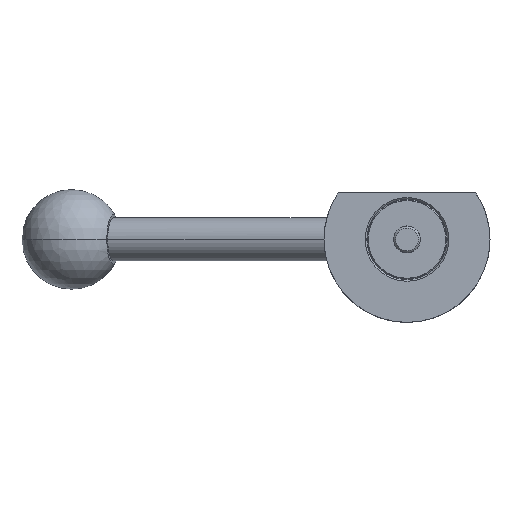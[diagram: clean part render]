
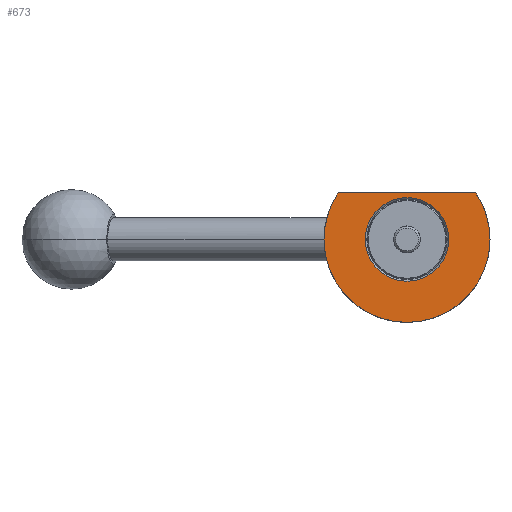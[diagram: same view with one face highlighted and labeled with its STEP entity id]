
A CAD part, front view. The second image highlights one B-rep face of the part: STEP entity #673.
In plain terms, the highlighted planar face has unit normal (0, -1, 0).
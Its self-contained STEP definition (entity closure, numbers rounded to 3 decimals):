
#8 = DIRECTION ( 'NONE',  ( -1., 0., 0. ) ) ;
#57 = DIRECTION ( 'NONE',  ( 1., 0., 0. ) ) ;
#61 = CIRCLE ( 'NONE', #1487, 25. ) ;
#81 = CARTESIAN_POINT ( 'NONE',  ( -20.712, -12., 14. ) ) ;
#136 = CARTESIAN_POINT ( 'NONE',  ( -12.6, -12., 14. ) ) ;
#153 = EDGE_CURVE ( 'NONE', #1583, #1735, #955, .T. ) ;
#198 = VECTOR ( 'NONE', #577, 1000. ) ;
#261 = AXIS2_PLACEMENT_3D ( 'NONE', #271, #1857, #1708 ) ;
#271 = CARTESIAN_POINT ( 'NONE',  ( 0., -12., 0. ) ) ;
#282 = EDGE_CURVE ( 'NONE', #740, #296, #1418, .T. ) ;
#296 = VERTEX_POINT ( 'NONE', #1472 ) ;
#430 = DIRECTION ( 'NONE',  ( 0., 1., 0. ) ) ;
#447 = EDGE_CURVE ( 'NONE', #740, #641, #752, .T. ) ;
#462 = VERTEX_POINT ( 'NONE', #1232 ) ;
#492 = CARTESIAN_POINT ( 'NONE',  ( 0., -12., 0. ) ) ;
#542 = FACE_BOUND ( 'NONE', #717, .T. ) ;
#568 = EDGE_CURVE ( 'NONE', #1735, #1583, #990, .T. ) ;
#577 = DIRECTION ( 'NONE',  ( -1., 0., 0. ) ) ;
#617 = CARTESIAN_POINT ( 'NONE',  ( 0., -12., 0. ) ) ;
#641 = VERTEX_POINT ( 'NONE', #81 ) ;
#670 = ORIENTED_EDGE ( 'NONE', *, *, #568, .T. ) ;
#673 = ADVANCED_FACE ( 'NONE', ( #542, #1147 ), #848, .T. ) ;
#717 = EDGE_LOOP ( 'NONE', ( #1296, #670 ) ) ;
#740 = VERTEX_POINT ( 'NONE', #1555 ) ;
#752 = LINE ( 'NONE', #136, #198 ) ;
#796 = CARTESIAN_POINT ( 'NONE',  ( 0., -12., 0. ) ) ;
#842 = CARTESIAN_POINT ( 'NONE',  ( 0., -12., 0. ) ) ;
#848 = PLANE ( 'NONE',  #1454 ) ;
#906 = CARTESIAN_POINT ( 'NONE',  ( -12.6, -12., 0. ) ) ;
#955 = CIRCLE ( 'NONE', #261, 12.6 ) ;
#990 = CIRCLE ( 'NONE', #1731, 12.6 ) ;
#1087 = DIRECTION ( 'NONE',  ( -1., 0., 0. ) ) ;
#1147 = FACE_OUTER_BOUND ( 'NONE', #1782, .T. ) ;
#1232 = CARTESIAN_POINT ( 'NONE',  ( -25., -12., 0. ) ) ;
#1296 = ORIENTED_EDGE ( 'NONE', *, *, #153, .T. ) ;
#1376 = EDGE_CURVE ( 'NONE', #296, #462, #1964, .T. ) ;
#1417 = AXIS2_PLACEMENT_3D ( 'NONE', #842, #1618, #1950 ) ;
#1418 = CIRCLE ( 'NONE', #1795, 25. ) ;
#1426 = DIRECTION ( 'NONE',  ( 0., 1., 0. ) ) ;
#1437 = ORIENTED_EDGE ( 'NONE', *, *, #1376, .F. ) ;
#1439 = DIRECTION ( 'NONE',  ( -1., 0., 0. ) ) ;
#1454 = AXIS2_PLACEMENT_3D ( 'NONE', #1758, #1631, #57 ) ;
#1472 = CARTESIAN_POINT ( 'NONE',  ( 25., -12., 0. ) ) ;
#1487 = AXIS2_PLACEMENT_3D ( 'NONE', #617, #430, #1087 ) ;
#1555 = CARTESIAN_POINT ( 'NONE',  ( 20.712, -12., 14. ) ) ;
#1583 = VERTEX_POINT ( 'NONE', #1855 ) ;
#1598 = ORIENTED_EDGE ( 'NONE', *, *, #282, .F. ) ;
#1618 = DIRECTION ( 'NONE',  ( 0., 1., 0. ) ) ;
#1631 = DIRECTION ( 'NONE',  ( 0., -1., 0. ) ) ;
#1637 = EDGE_CURVE ( 'NONE', #462, #641, #61, .T. ) ;
#1661 = ORIENTED_EDGE ( 'NONE', *, *, #1637, .F. ) ;
#1708 = DIRECTION ( 'NONE',  ( -1., 0., 0. ) ) ;
#1731 = AXIS2_PLACEMENT_3D ( 'NONE', #796, #1426, #8 ) ;
#1735 = VERTEX_POINT ( 'NONE', #906 ) ;
#1741 = DIRECTION ( 'NONE',  ( 0., 1., 0. ) ) ;
#1758 = CARTESIAN_POINT ( 'NONE',  ( -12.6, -12., 0. ) ) ;
#1782 = EDGE_LOOP ( 'NONE', ( #1598, #1940, #1661, #1437 ) ) ;
#1795 = AXIS2_PLACEMENT_3D ( 'NONE', #492, #1741, #1439 ) ;
#1855 = CARTESIAN_POINT ( 'NONE',  ( 12.6, -12., 0. ) ) ;
#1857 = DIRECTION ( 'NONE',  ( 0., 1., 0. ) ) ;
#1940 = ORIENTED_EDGE ( 'NONE', *, *, #447, .T. ) ;
#1950 = DIRECTION ( 'NONE',  ( -1., 0., 0. ) ) ;
#1964 = CIRCLE ( 'NONE', #1417, 25. ) ;
